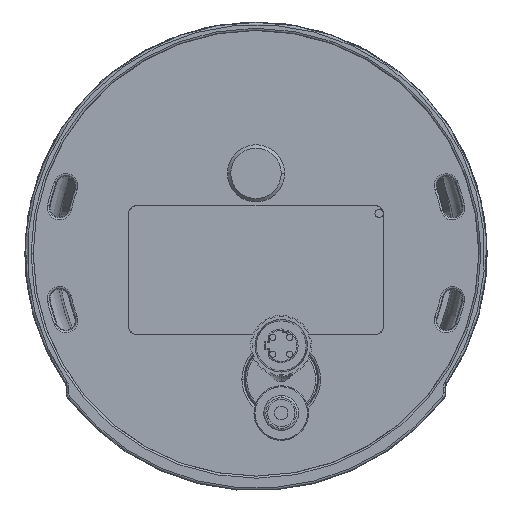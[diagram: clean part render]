
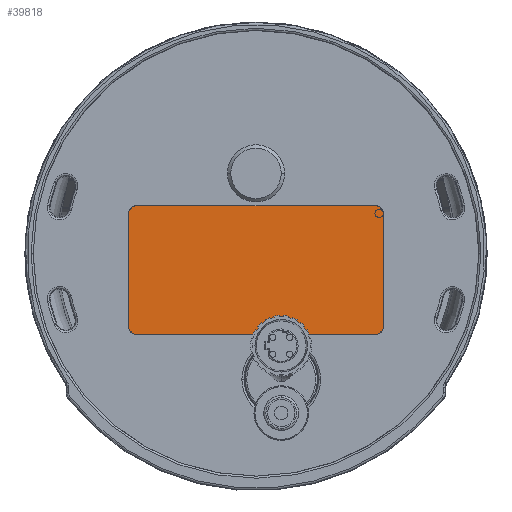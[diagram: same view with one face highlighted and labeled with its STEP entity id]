
A CAD part, front view. The second image highlights one B-rep face of the part: STEP entity #39818.
In plain terms, the highlighted planar face has unit normal (0, -1, 0).
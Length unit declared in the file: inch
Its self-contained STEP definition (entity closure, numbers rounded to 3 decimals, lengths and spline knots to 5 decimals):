
#29361=CARTESIAN_POINT('',(1.19291,-0.81496,
-1.46861));
#29362=CARTESIAN_POINT('',(1.19291,-0.81496,
-1.47716));
#29363=CARTESIAN_POINT('',(1.19029,-0.81496,
-1.4933));
#29364=CARTESIAN_POINT('',(1.17892,-0.81496,
-1.51567));
#29365=CARTESIAN_POINT('',(1.16134,-0.81496,
-1.53325));
#29366=CARTESIAN_POINT('',(1.13897,-0.81496,
-1.54462));
#29367=CARTESIAN_POINT('',(1.12282,-0.81496,
-1.54724));
#29368=CARTESIAN_POINT('',(1.11428,-0.81496,
-1.54724));
#29370=DIRECTION('',(0.,0.,-1.));
#29371=VECTOR('',#29370,1.04746);
#29372=CARTESIAN_POINT('',(1.19291,-0.81496,
-0.42115));
#29373=LINE('',#29372,#29371);
#29382=DIRECTION('',(1.,0.,0.));
#29383=VECTOR('',#29382,2.22856);
#29384=CARTESIAN_POINT('',(-1.11428,-0.81496,
-1.54724));
#29385=LINE('',#29384,#29383);
#29386=CARTESIAN_POINT('',(-1.19291,-0.81496,
-1.46861));
#29387=CARTESIAN_POINT('',(-1.19291,-0.81496,
-1.47712));
#29388=CARTESIAN_POINT('',(-1.19031,-0.81496,
-1.49322));
#29389=CARTESIAN_POINT('',(-1.17895,-0.81496,
-1.51565));
#29390=CARTESIAN_POINT('',(-1.16132,-0.81496,
-1.53328));
#29391=CARTESIAN_POINT('',(-1.13889,-0.81496,
-1.54464));
#29392=CARTESIAN_POINT('',(-1.12279,-0.81496,
-1.54724));
#29393=CARTESIAN_POINT('',(-1.11428,-0.81496,
-1.54724));
#29408=DIRECTION('',(0.,0.,-1.));
#29409=VECTOR('',#29408,1.04746);
#29410=CARTESIAN_POINT('',(-1.19291,-0.81496,
-0.42115));
#29411=LINE('',#29410,#29409);
#29420=CARTESIAN_POINT('',(-1.11428,-0.81496,
-0.34252));
#29421=CARTESIAN_POINT('',(-1.12279,-0.81496,
-0.34252));
#29422=CARTESIAN_POINT('',(-1.13889,-0.81496,
-0.34513));
#29423=CARTESIAN_POINT('',(-1.16132,-0.81496,
-0.35648));
#29424=CARTESIAN_POINT('',(-1.17895,-0.81496,
-0.37411));
#29425=CARTESIAN_POINT('',(-1.19031,-0.81496,
-0.39654));
#29426=CARTESIAN_POINT('',(-1.19291,-0.81496,
-0.41264));
#29427=CARTESIAN_POINT('',(-1.19291,-0.81496,
-0.42115));
#29442=DIRECTION('',(-1.,0.,0.));
#29443=VECTOR('',#29442,2.22856);
#29444=CARTESIAN_POINT('',(1.11428,-0.81496,
-0.34252));
#29445=LINE('',#29444,#29443);
#29454=CARTESIAN_POINT('',(1.19291,-0.81496,
-0.42115));
#29455=CARTESIAN_POINT('',(1.19291,-0.81496,
-0.41264));
#29456=CARTESIAN_POINT('',(1.19031,-0.81496,
-0.39654));
#29457=CARTESIAN_POINT('',(1.17895,-0.81496,
-0.37411));
#29458=CARTESIAN_POINT('',(1.16132,-0.81496,
-0.35649));
#29459=CARTESIAN_POINT('',(1.13889,-0.81496,
-0.34513));
#29460=CARTESIAN_POINT('',(1.12279,-0.81496,
-0.34252));
#29461=CARTESIAN_POINT('',(1.11428,-0.81496,
-0.34252));
#33816=CARTESIAN_POINT('',(1.19291,-0.81496,
-0.42115));
#33817=VERTEX_POINT('',#33816);
#33818=CARTESIAN_POINT('',(1.19291,-0.81496,
-1.46861));
#33819=VERTEX_POINT('',#33818);
#33820=VERTEX_POINT('',#29368);
#33821=CARTESIAN_POINT('',(-1.11428,-0.81496,
-1.54724));
#33822=VERTEX_POINT('',#33821);
#33823=VERTEX_POINT('',#29386);
#33824=CARTESIAN_POINT('',(-1.19291,-0.81496,
-0.42115));
#33825=VERTEX_POINT('',#33824);
#33826=VERTEX_POINT('',#29420);
#33827=CARTESIAN_POINT('',(1.11428,-0.81496,
-0.34252));
#33828=VERTEX_POINT('',#33827);
#39797=CARTESIAN_POINT('',(0.,-0.81496,-0.94488));
#39798=DIRECTION('',(0.,1.,0.));
#39799=DIRECTION('',(1.,0.,0.));
#39800=AXIS2_PLACEMENT_3D('',#39797,#39798,#39799);
#39801=PLANE('',#39800);
#39802=ORIENTED_EDGE('',*,*,#39781,.T.);
#39804=ORIENTED_EDGE('',*,*,#39803,.F.);
#39806=ORIENTED_EDGE('',*,*,#39805,.F.);
#39808=ORIENTED_EDGE('',*,*,#39807,.F.);
#39810=ORIENTED_EDGE('',*,*,#39809,.F.);
#39812=ORIENTED_EDGE('',*,*,#39811,.F.);
#39814=ORIENTED_EDGE('',*,*,#39813,.F.);
#39815=ORIENTED_EDGE('',*,*,#39761,.T.);
#39816=EDGE_LOOP('',(#39802,#39804,#39806,#39808,#39810,#39812,#39814,#39815));
#39817=FACE_OUTER_BOUND('',#39816,.F.);
#29369=B_SPLINE_CURVE_WITH_KNOTS('',3,(#29361,#29362,#29363,#29364,#29365,
#29366,#29367,#29368),.UNSPECIFIED.,.F.,.F.,(4,1,1,1,1,4),(0.,0.2,0.4,
0.6,0.8,1.),.UNSPECIFIED.);
#29394=B_SPLINE_CURVE_WITH_KNOTS('',3,(#29386,#29387,#29388,#29389,#29390,
#29391,#29392,#29393),.UNSPECIFIED.,.F.,.F.,(4,1,1,1,1,4),(0.,0.2,0.4,
0.6,0.8,1.),.UNSPECIFIED.);
#29428=B_SPLINE_CURVE_WITH_KNOTS('',3,(#29420,#29421,#29422,#29423,#29424,
#29425,#29426,#29427),.UNSPECIFIED.,.F.,.F.,(4,1,1,1,1,4),(0.,0.2,0.4,
0.6,0.8,1.),.UNSPECIFIED.);
#29462=B_SPLINE_CURVE_WITH_KNOTS('',3,(#29454,#29455,#29456,#29457,#29458,
#29459,#29460,#29461),.UNSPECIFIED.,.F.,.F.,(4,1,1,1,1,4),(0.,0.2,0.4,
0.6,0.8,1.),.UNSPECIFIED.);
#39761=EDGE_CURVE('',#33817,#33819,#29373,.T.);
#39781=EDGE_CURVE('',#33819,#33820,#29369,.T.);
#39803=EDGE_CURVE('',#33822,#33820,#29385,.T.);
#39805=EDGE_CURVE('',#33823,#33822,#29394,.T.);
#39807=EDGE_CURVE('',#33825,#33823,#29411,.T.);
#39809=EDGE_CURVE('',#33826,#33825,#29428,.T.);
#39811=EDGE_CURVE('',#33828,#33826,#29445,.T.);
#39813=EDGE_CURVE('',#33817,#33828,#29462,.T.);
#39818=ADVANCED_FACE('',(#39817),#39801,.F.);
